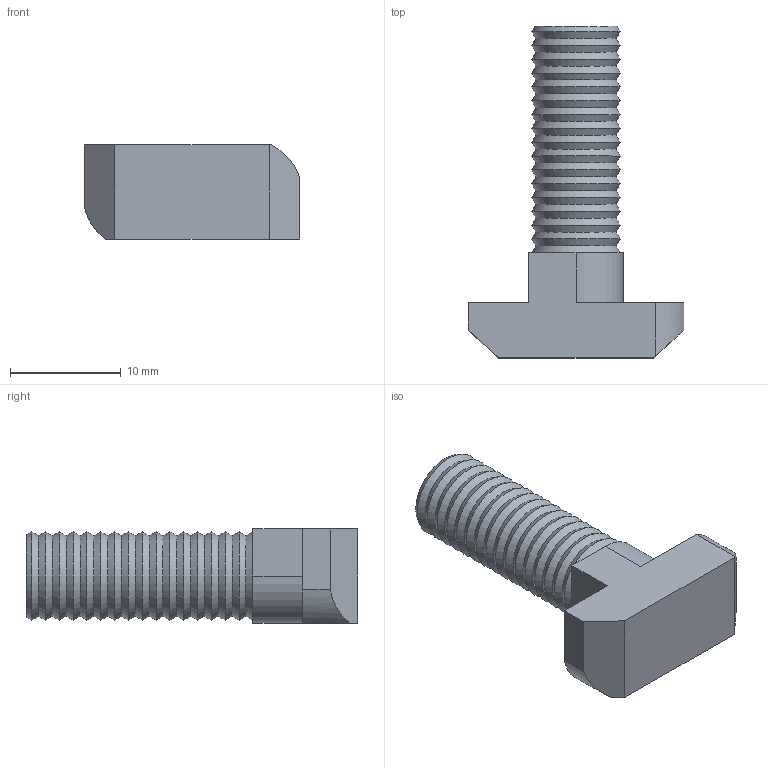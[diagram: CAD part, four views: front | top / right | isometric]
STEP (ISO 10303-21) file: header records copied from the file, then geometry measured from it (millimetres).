
FILE_DESCRIPTION((''),'2;1');
FILE_NAME('E:\catalogue and flyer\Profile catalogue 2015\Accessories JE info\Accessories-JE step file 31MAr16\JE-HH8x25-10.stp','2016-03-31T15:58:57',('h029'),(''),'Autodesk Inventor 11','Autodesk Inventor 11','');
FILE_SCHEMA(('AUTOMOTIVE_DESIGN { 1 0 10303 214 1 1 1 1 }'));
Length unit declared in the file: millimetre
Products named in the file (1): JE-HH8x__-10
Bounding box: 19.5 x 30 x 8.5 mm (x, y, z)
Volume: 1986.2 mm3; surface area: 1253 mm2
Topology: 1 solids, 1 shells, 50 faces, 111 edges, 64 vertices
Faces by surface type: cone 33, plane 13, cylinder 4
Entity records: 1197 total; most frequent: DIRECTION 220, CARTESIAN_POINT 189, ORIENTED_EDGE 152, AXIS2_PLACEMENT_3D 93, EDGE_LOOP 84, EDGE_CURVE 76, VERTEX_POINT 62, FACE_OUTER_BOUND 50
